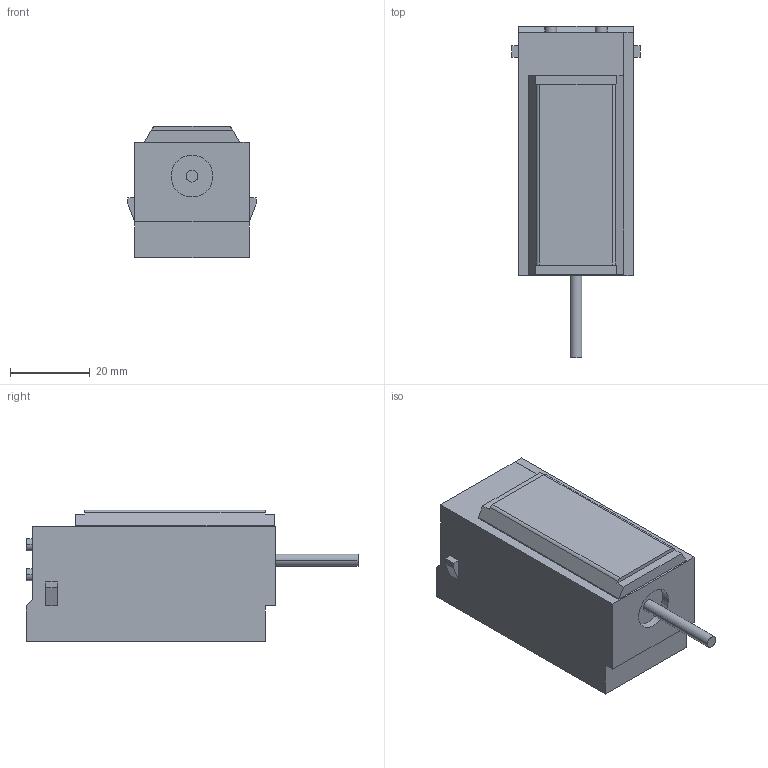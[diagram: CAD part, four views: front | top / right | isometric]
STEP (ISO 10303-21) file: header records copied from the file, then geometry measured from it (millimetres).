
FILE_DESCRIPTION (( 'STEP AP214' ), '1' );
FILE_NAME ('Ðàñöåïèòåëü íåçàâèñèìûé OptiMat D800, D1000, D1250, D1600 - 220DC, 230AC.STEP', '2023-04-26T11:37:45', ( '' ), ( '' ), 'SwSTEP 2.0', 'SolidWorks 2018', '' );
FILE_SCHEMA (( 'AUTOMOTIVE_DESIGN' ));
Length unit declared in the file: millimetre
Products named in the file (1): Ðàñöåïèòåëü íåçàâèñèìûé OptiMat D800, D1000, D1250, D1600 - 220DC, 230AC
Bounding box: 32.2 x 83.3 x 33 mm (x, y, z)
Volume: 55060.3 mm3; surface area: 9517.5 mm2
Topology: 1 solids, 1 shells, 46 faces, 114 edges, 76 vertices
Faces by surface type: plane 34, cylinder 12
Entity records: 1904 total; most frequent: CARTESIAN_POINT 237, DIRECTION 234, ORIENTED_EDGE 228, EDGE_CURVE 114, LINE 88, VECTOR 88, VERTEX_POINT 76, AXIS2_PLACEMENT_3D 73
